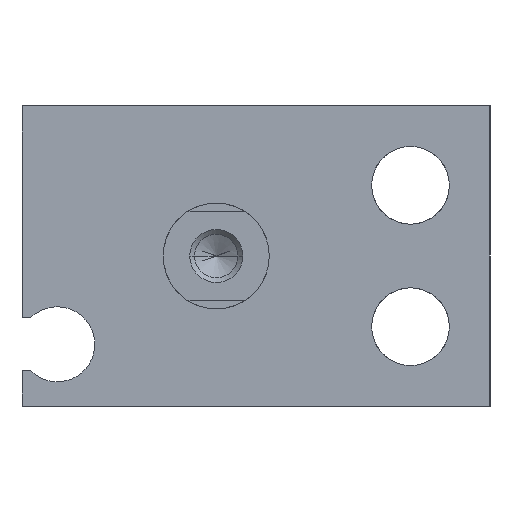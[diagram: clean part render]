
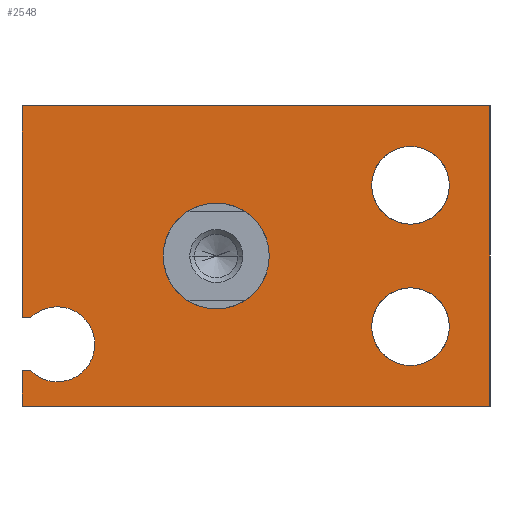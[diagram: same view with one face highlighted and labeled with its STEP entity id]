
A CAD part, left-side view. The second image highlights one B-rep face of the part: STEP entity #2548.
In plain terms, the highlighted planar face has unit normal (-1, 0, 0).
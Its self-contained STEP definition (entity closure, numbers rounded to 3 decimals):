
#48 = EDGE_CURVE ( 'NONE', #2677, #3001, #2003, .T. ) ;
#49 = EDGE_CURVE ( 'NONE', #2893, #2918, #2405, .T. ) ;
#74 = EDGE_CURVE ( 'NONE', #2618, #1361, #3046, .T. ) ;
#84 = CARTESIAN_POINT ( 'NONE',  ( 0., 11., -8.5 ) ) ;
#138 = EDGE_CURVE ( 'NONE', #1760, #2767, #2347, .T. ) ;
#146 = CARTESIAN_POINT ( 'NONE',  ( 0., 0., 3. ) ) ;
#181 = VECTOR ( 'NONE', #333, 1000. ) ;
#188 = VERTEX_POINT ( 'NONE', #614 ) ;
#232 = DIRECTION ( 'NONE',  ( -1., 0., 0. ) ) ;
#237 = CARTESIAN_POINT ( 'NONE',  ( 0., -15.5, -8.5 ) ) ;
#238 = CARTESIAN_POINT ( 'NONE',  ( 0., 0., 0. ) ) ;
#277 = ORIENTED_EDGE ( 'NONE', *, *, #1665, .T. ) ;
#283 = CARTESIAN_POINT ( 'NONE',  ( 0., -15.5, -8.5 ) ) ;
#289 = ORIENTED_EDGE ( 'NONE', *, *, #2391, .F. ) ;
#303 = EDGE_LOOP ( 'NONE', ( #277, #341 ) ) ;
#332 = AXIS2_PLACEMENT_3D ( 'NONE', #2897, #1500, #1486 ) ;
#333 = DIRECTION ( 'NONE',  ( 0., 1., 0. ) ) ;
#336 = CARTESIAN_POINT ( 'NONE',  ( 0., -11., 4. ) ) ;
#339 = VERTEX_POINT ( 'NONE', #978 ) ;
#341 = ORIENTED_EDGE ( 'NONE', *, *, #1241, .T. ) ;
#373 = VERTEX_POINT ( 'NONE', #2919 ) ;
#409 = CARTESIAN_POINT ( 'NONE',  ( 0., 11., -3.5 ) ) ;
#433 = AXIS2_PLACEMENT_3D ( 'NONE', #2493, #2971, #800 ) ;
#470 = LINE ( 'NONE', #237, #3064 ) ;
#500 = CIRCLE ( 'NONE', #2211, 3. ) ;
#538 = CARTESIAN_POINT ( 'NONE',  ( 0., 0., -3. ) ) ;
#557 = CIRCLE ( 'NONE', #2193, 3. ) ;
#614 = CARTESIAN_POINT ( 'NONE',  ( 0., 11., -6.5 ) ) ;
#724 = ORIENTED_EDGE ( 'NONE', *, *, #49, .F. ) ;
#731 = CARTESIAN_POINT ( 'NONE',  ( 0., 11., -6.5 ) ) ;
#749 = ORIENTED_EDGE ( 'NONE', *, *, #1941, .T. ) ;
#800 = DIRECTION ( 'NONE',  ( 0., 0., 1. ) ) ;
#807 = DIRECTION ( 'NONE',  ( 1., 0., 0. ) ) ;
#863 = ORIENTED_EDGE ( 'NONE', *, *, #1765, .T. ) ;
#880 = VECTOR ( 'NONE', #2329, 1000. ) ;
#909 = CARTESIAN_POINT ( 'NONE',  ( 0., 11., -8.5 ) ) ;
#911 = ORIENTED_EDGE ( 'NONE', *, *, #1832, .T. ) ;
#933 = CARTESIAN_POINT ( 'NONE',  ( 0., -11., 6.2 ) ) ;
#965 = CARTESIAN_POINT ( 'NONE',  ( 0., 9., -7.125 ) ) ;
#978 = CARTESIAN_POINT ( 'NONE',  ( 0., 10.505, -3.5 ) ) ;
#1051 = LINE ( 'NONE', #409, #2216 ) ;
#1130 = DIRECTION ( 'NONE',  ( -1., 0., 0. ) ) ;
#1172 = FACE_BOUND ( 'NONE', #303, .T. ) ;
#1192 = FACE_BOUND ( 'NONE', #1945, .T. ) ;
#1204 = DIRECTION ( 'NONE',  ( 0., 0., 1. ) ) ;
#1228 = DIRECTION ( 'NONE',  ( 1., 0., 0. ) ) ;
#1231 = ORIENTED_EDGE ( 'NONE', *, *, #2705, .T. ) ;
#1239 = ORIENTED_EDGE ( 'NONE', *, *, #2978, .F. ) ;
#1241 = EDGE_CURVE ( 'NONE', #2321, #3110, #557, .T. ) ;
#1261 = VECTOR ( 'NONE', #2178, 1000. ) ;
#1263 = ORIENTED_EDGE ( 'NONE', *, *, #2842, .T. ) ;
#1331 = AXIS2_PLACEMENT_3D ( 'NONE', #2645, #1958, #1944 ) ;
#1361 = VERTEX_POINT ( 'NONE', #2557 ) ;
#1448 = FACE_OUTER_BOUND ( 'NONE', #1875, .T. ) ;
#1465 = FACE_BOUND ( 'NONE', #2883, .T. ) ;
#1486 = DIRECTION ( 'NONE',  ( 0., 0., 1. ) ) ;
#1500 = DIRECTION ( 'NONE',  ( -1., 0., 0. ) ) ;
#1512 = CARTESIAN_POINT ( 'NONE',  ( 0., 10.505, -6.5 ) ) ;
#1566 = CARTESIAN_POINT ( 'NONE',  ( 0., 9., -5. ) ) ;
#1626 = DIRECTION ( 'NONE',  ( 0., 0., 1. ) ) ;
#1643 = CARTESIAN_POINT ( 'NONE',  ( 0., 9., -2.875 ) ) ;
#1665 = EDGE_CURVE ( 'NONE', #3110, #2321, #500, .T. ) ;
#1709 = DIRECTION ( 'NONE',  ( 0., 0., 1. ) ) ;
#1712 = VERTEX_POINT ( 'NONE', #2674 ) ;
#1725 = ORIENTED_EDGE ( 'NONE', *, *, #48, .T. ) ;
#1760 = VERTEX_POINT ( 'NONE', #84 ) ;
#1765 = EDGE_CURVE ( 'NONE', #373, #339, #1051, .T. ) ;
#1778 = ORIENTED_EDGE ( 'NONE', *, *, #2886, .F. ) ;
#1802 = VECTOR ( 'NONE', #2701, 1000. ) ;
#1808 = CARTESIAN_POINT ( 'NONE',  ( 0., 11., 8.5 ) ) ;
#1826 = EDGE_CURVE ( 'NONE', #1712, #2684, #2059, .T. ) ;
#1832 = EDGE_CURVE ( 'NONE', #188, #1760, #2836, .T. ) ;
#1875 = EDGE_LOOP ( 'NONE', ( #1966, #1263, #1725, #1231, #863, #2339, #724, #1778, #749, #911 ) ) ;
#1941 = EDGE_CURVE ( 'NONE', #3010, #188, #2856, .T. ) ;
#1944 = DIRECTION ( 'NONE',  ( 0., 0., 1. ) ) ;
#1945 = EDGE_LOOP ( 'NONE', ( #2720, #1239 ) ) ;
#1950 = CARTESIAN_POINT ( 'NONE',  ( 0., 11., 8.5 ) ) ;
#1958 = DIRECTION ( 'NONE',  ( -1., 0., 0. ) ) ;
#1966 = ORIENTED_EDGE ( 'NONE', *, *, #138, .T. ) ;
#1982 = DIRECTION ( 'NONE',  ( 0., 0., 1. ) ) ;
#2003 = LINE ( 'NONE', #2726, #181 ) ;
#2009 = DIRECTION ( 'NONE',  ( 0., 0., -1. ) ) ;
#2030 = VECTOR ( 'NONE', #3115, 1000. ) ;
#2059 = CIRCLE ( 'NONE', #2664, 2.2 ) ;
#2063 = CARTESIAN_POINT ( 'NONE',  ( 0., -15.5, 8.5 ) ) ;
#2156 = CARTESIAN_POINT ( 'NONE',  ( 0., 9., -5. ) ) ;
#2159 = CARTESIAN_POINT ( 'NONE',  ( 0., 10.505, -6.5 ) ) ;
#2178 = DIRECTION ( 'NONE',  ( 0., 0., -1. ) ) ;
#2193 = AXIS2_PLACEMENT_3D ( 'NONE', #2656, #1228, #2855 ) ;
#2211 = AXIS2_PLACEMENT_3D ( 'NONE', #238, #807, #2009 ) ;
#2216 = VECTOR ( 'NONE', #3060, 1000. ) ;
#2236 = DIRECTION ( 'NONE',  ( 0., 0., 1. ) ) ;
#2300 = AXIS2_PLACEMENT_3D ( 'NONE', #3123, #1130, #1626 ) ;
#2321 = VERTEX_POINT ( 'NONE', #146 ) ;
#2329 = DIRECTION ( 'NONE',  ( 0., -1., 0. ) ) ;
#2339 = ORIENTED_EDGE ( 'NONE', *, *, #2350, .F. ) ;
#2347 = LINE ( 'NONE', #909, #880 ) ;
#2350 = EDGE_CURVE ( 'NONE', #2918, #339, #2594, .T. ) ;
#2391 = EDGE_CURVE ( 'NONE', #1361, #2618, #2692, .T. ) ;
#2405 = CIRCLE ( 'NONE', #2489, 2.125 ) ;
#2419 = CIRCLE ( 'NONE', #332, 2.2 ) ;
#2457 = CARTESIAN_POINT ( 'NONE',  ( 0., -11., -6.2 ) ) ;
#2483 = DIRECTION ( 'NONE',  ( -1., 0., 0. ) ) ;
#2489 = AXIS2_PLACEMENT_3D ( 'NONE', #1566, #2523, #2236 ) ;
#2493 = CARTESIAN_POINT ( 'NONE',  ( 0., -11., 4. ) ) ;
#2523 = DIRECTION ( 'NONE',  ( -1., 0., 0. ) ) ;
#2526 = AXIS2_PLACEMENT_3D ( 'NONE', #2156, #3112, #2873 ) ;
#2539 = LINE ( 'NONE', #1808, #1802 ) ;
#2548 = ADVANCED_FACE ( 'NONE', ( #1448, #1172, #1192, #1465 ), #2638, .T. ) ;
#2552 = CIRCLE ( 'NONE', #2300, 2.125 ) ;
#2557 = CARTESIAN_POINT ( 'NONE',  ( 0., -11., 1.8 ) ) ;
#2594 = CIRCLE ( 'NONE', #1331, 2.125 ) ;
#2618 = VERTEX_POINT ( 'NONE', #933 ) ;
#2625 = CARTESIAN_POINT ( 'NONE',  ( 0., -11., -4. ) ) ;
#2638 = PLANE ( 'NONE',  #2526 ) ;
#2645 = CARTESIAN_POINT ( 'NONE',  ( 0., 9., -5. ) ) ;
#2656 = CARTESIAN_POINT ( 'NONE',  ( 0., 0., 0. ) ) ;
#2664 = AXIS2_PLACEMENT_3D ( 'NONE', #2625, #232, #1709 ) ;
#2674 = CARTESIAN_POINT ( 'NONE',  ( 0., -11., -1.8 ) ) ;
#2677 = VERTEX_POINT ( 'NONE', #2063 ) ;
#2684 = VERTEX_POINT ( 'NONE', #2457 ) ;
#2692 = CIRCLE ( 'NONE', #3042, 2.2 ) ;
#2701 = DIRECTION ( 'NONE',  ( 0., 0., -1. ) ) ;
#2705 = EDGE_CURVE ( 'NONE', #3001, #373, #2539, .T. ) ;
#2720 = ORIENTED_EDGE ( 'NONE', *, *, #1826, .F. ) ;
#2726 = CARTESIAN_POINT ( 'NONE',  ( 0., -15.5, 8.5 ) ) ;
#2767 = VERTEX_POINT ( 'NONE', #283 ) ;
#2836 = LINE ( 'NONE', #731, #1261 ) ;
#2842 = EDGE_CURVE ( 'NONE', #2767, #2677, #470, .T. ) ;
#2855 = DIRECTION ( 'NONE',  ( 0., 0., -1. ) ) ;
#2856 = LINE ( 'NONE', #2159, #2030 ) ;
#2873 = DIRECTION ( 'NONE',  ( 0., 0., 1. ) ) ;
#2883 = EDGE_LOOP ( 'NONE', ( #3039, #289 ) ) ;
#2886 = EDGE_CURVE ( 'NONE', #3010, #2893, #2552, .T. ) ;
#2893 = VERTEX_POINT ( 'NONE', #965 ) ;
#2897 = CARTESIAN_POINT ( 'NONE',  ( 0., -11., -4. ) ) ;
#2918 = VERTEX_POINT ( 'NONE', #1643 ) ;
#2919 = CARTESIAN_POINT ( 'NONE',  ( 0., 11., -3.5 ) ) ;
#2971 = DIRECTION ( 'NONE',  ( -1., 0., 0. ) ) ;
#2978 = EDGE_CURVE ( 'NONE', #2684, #1712, #2419, .T. ) ;
#3001 = VERTEX_POINT ( 'NONE', #1950 ) ;
#3010 = VERTEX_POINT ( 'NONE', #1512 ) ;
#3039 = ORIENTED_EDGE ( 'NONE', *, *, #74, .F. ) ;
#3042 = AXIS2_PLACEMENT_3D ( 'NONE', #336, #2483, #1982 ) ;
#3046 = CIRCLE ( 'NONE', #433, 2.2 ) ;
#3060 = DIRECTION ( 'NONE',  ( 0., -1., 0. ) ) ;
#3064 = VECTOR ( 'NONE', #1204, 1000. ) ;
#3110 = VERTEX_POINT ( 'NONE', #538 ) ;
#3112 = DIRECTION ( 'NONE',  ( -1., 0., 0. ) ) ;
#3115 = DIRECTION ( 'NONE',  ( 0., 1., 0. ) ) ;
#3123 = CARTESIAN_POINT ( 'NONE',  ( 0., 9., -5. ) ) ;
